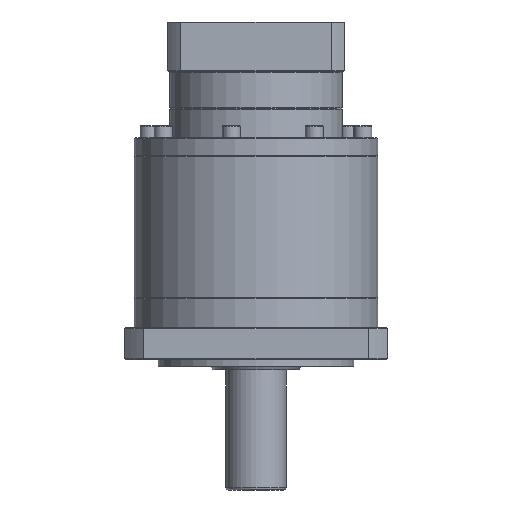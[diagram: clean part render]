
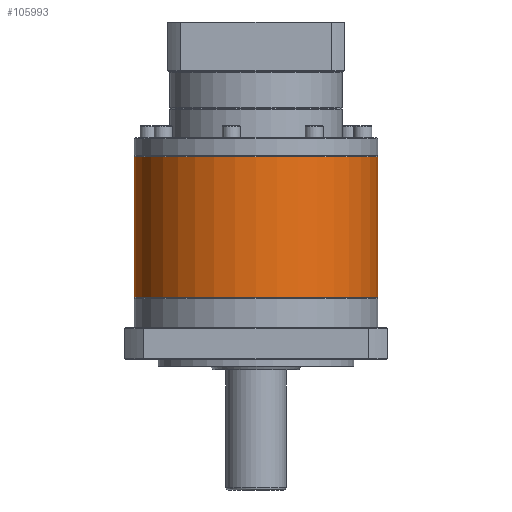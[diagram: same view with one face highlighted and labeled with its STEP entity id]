
A CAD part, front view. The second image highlights one B-rep face of the part: STEP entity #105993.
In plain terms, the highlighted cylindrical face has radius 81 mm (diameter 162 mm), a partial arc.
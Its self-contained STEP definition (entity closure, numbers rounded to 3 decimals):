
#743 = VERTEX_POINT ( 'NONE', #100941 ) ;
#4653 = DIRECTION ( 'NONE',  ( 0., 0., -1. ) ) ;
#5918 = DIRECTION ( 'NONE',  ( 0., 0., -1. ) ) ;
#9845 = CARTESIAN_POINT ( 'NONE',  ( -191.837, 83.568, -141.755 ) ) ;
#10444 = ORIENTED_EDGE ( 'NONE', *, *, #129583, .F. ) ;
#15678 = VERTEX_POINT ( 'NONE', #140230 ) ;
#23971 = AXIS2_PLACEMENT_3D ( 'NONE', #80539, #68193, #24476 ) ;
#24476 = DIRECTION ( 'NONE',  ( -1., 0., 0. ) ) ;
#32918 = VECTOR ( 'NONE', #4653, 1000. ) ;
#37534 = EDGE_LOOP ( 'NONE', ( #10444, #74386, #81827, #134275 ) ) ;
#40629 = DIRECTION ( 'NONE',  ( 0., 0., -1. ) ) ;
#57307 = CYLINDRICAL_SURFACE ( 'NONE', #23971, 81. ) ;
#60227 = VECTOR ( 'NONE', #40629, 1000. ) ;
#61612 = EDGE_CURVE ( 'NONE', #131503, #90994, #128633, .T. ) ;
#66169 = DIRECTION ( 'NONE',  ( -1., 0., 0. ) ) ;
#67114 = CARTESIAN_POINT ( 'NONE',  ( -110.837, 83.568, -235.255 ) ) ;
#68193 = DIRECTION ( 'NONE',  ( 0., 0., -1. ) ) ;
#73189 = CARTESIAN_POINT ( 'NONE',  ( -191.837, 83.568, -141.255 ) ) ;
#74386 = ORIENTED_EDGE ( 'NONE', *, *, #61612, .T. ) ;
#76464 = AXIS2_PLACEMENT_3D ( 'NONE', #67114, #99262, #66169 ) ;
#78943 = EDGE_CURVE ( 'NONE', #90994, #743, #80771, .T. ) ;
#80539 = CARTESIAN_POINT ( 'NONE',  ( -110.837, 83.568, -141.255 ) ) ;
#80771 = LINE ( 'NONE', #73189, #60227 ) ;
#81827 = ORIENTED_EDGE ( 'NONE', *, *, #78943, .T. ) ;
#83022 = FACE_OUTER_BOUND ( 'NONE', #37534, .T. ) ;
#90994 = VERTEX_POINT ( 'NONE', #9845 ) ;
#98747 = CARTESIAN_POINT ( 'NONE',  ( -110.837, 83.568, -141.755 ) ) ;
#99262 = DIRECTION ( 'NONE',  ( 0., 0., 1. ) ) ;
#100941 = CARTESIAN_POINT ( 'NONE',  ( -191.837, 83.568, -235.255 ) ) ;
#101279 = CARTESIAN_POINT ( 'NONE',  ( -29.837, 83.568, -141.755 ) ) ;
#105993 = ADVANCED_FACE ( 'NONE', ( #83022 ), #57307, .T. ) ;
#111957 = LINE ( 'NONE', #113703, #32918 ) ;
#113703 = CARTESIAN_POINT ( 'NONE',  ( -29.837, 83.568, -141.255 ) ) ;
#114054 = DIRECTION ( 'NONE',  ( -1., 0., 0. ) ) ;
#121478 = CIRCLE ( 'NONE', #76464, 81. ) ;
#128633 = CIRCLE ( 'NONE', #138369, 81. ) ;
#129583 = EDGE_CURVE ( 'NONE', #131503, #15678, #111957, .T. ) ;
#131503 = VERTEX_POINT ( 'NONE', #101279 ) ;
#134275 = ORIENTED_EDGE ( 'NONE', *, *, #139134, .T. ) ;
#138369 = AXIS2_PLACEMENT_3D ( 'NONE', #98747, #5918, #114054 ) ;
#139134 = EDGE_CURVE ( 'NONE', #743, #15678, #121478, .T. ) ;
#140230 = CARTESIAN_POINT ( 'NONE',  ( -29.837, 83.568, -235.255 ) ) ;
